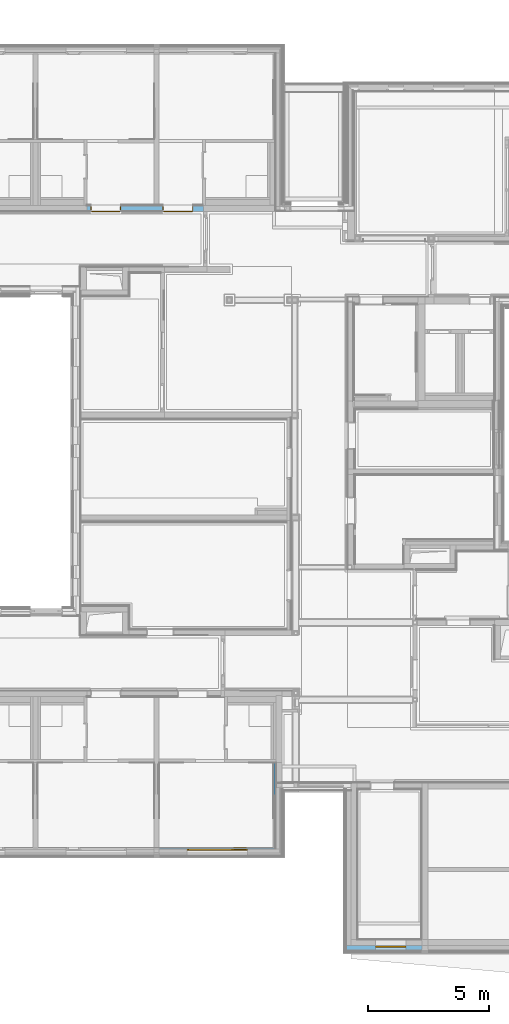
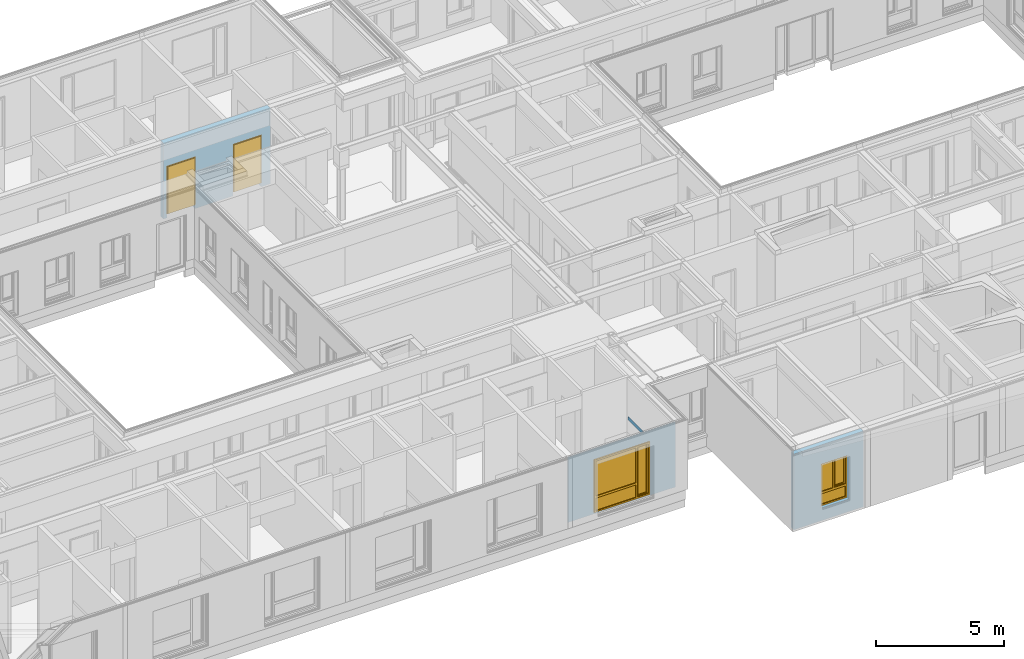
# One storey, part 86 of 207: 2 doors, 2 windows, 1 wall, 4 openings, plus 3 elements that do not belong to this part.
"""IFC4 building model written with IfcOpenShell, lengths in metres."""

from ifc_helpers import new_model, entity, si_unit, converted_unit, derived_unit, frame, frame_2d, origin, origin_with_axes, place, context, subcontext, project, spatial, polyline, rectangle, outline, extrude, closed_shell, open_shell, faceted_brep, surface_model, source, transform, mapped, material, type_object, element, fill, save


model = new_model("IFC4")

# Units and contexts
model_context = context("Model", 3, precision=1e-05, world=origin())
body_context = subcontext(model_context, "Body", "Model", "MODEL_VIEW")
ifc_project = project(units=[si_unit("LENGTHUNIT", "METRE"), si_unit("AREAUNIT", "SQUARE_METRE"), si_unit("VOLUMEUNIT", "CUBIC_METRE"), si_unit("MASSUNIT", "GRAM", prefix="KILO"), converted_unit("PLANEANGLEUNIT", "DEGREE", entity("IfcPlaneAngleMeasure", 0.0174532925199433), si_unit("PLANEANGLEUNIT", "RADIAN"), dimensions=[0, 0, 0, 0, 0, 0, 0]), derived_unit("THERMALTRANSMITTANCEUNIT", [(si_unit("POWERUNIT", "WATT"), 1), (si_unit("THERMODYNAMICTEMPERATUREUNIT", "KELVIN"), -1), (si_unit("LENGTHUNIT", "METRE"), -2)]), derived_unit("VOLUMETRICFLOWRATEUNIT", [(si_unit("LENGTHUNIT", "METRE"), 3), (converted_unit("TIMEUNIT", "hour", entity("IfcTimeMeasure", 3600.0), si_unit("TIMEUNIT", "SECOND"), dimensions=[0, 0, 1, 0, 0, 0, 0]), -1), (si_unit("LENGTHUNIT", "METRE"), -1)])], contexts=[model_context])

# Site, building, storey
site_placement = place(None, origin())
site = spatial("IfcSite", under=ifc_project, at=site_placement, Name="Psychiatrie Neubau Wunstorf", CompositionType="ELEMENT")
building_placement = place(site_placement, origin())
building = spatial("IfcBuilding", under=site, at=building_placement, Name="Neubau H2 Stationsgebäude", CompositionType="ELEMENT")
storey_placement = place(building_placement, frame((0.0, 0.0, -0.2)))
storey = spatial("IfcBuildingStorey", under=building, at=storey_placement, Name="H2 Ebene 0", CompositionType="ELEMENT", Elevation=-0.2)

# Wall, opening, window
ifc_material_1 = material(Name="WA-LB")
wall_1_placement = place(storey_placement, frame((34.925, -2.16399999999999, 0.5), z_axis=(0.0, 0.0, 1.0), x_axis=(-1.0, 9.42481556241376e-17, 0.0)))
wall_1 = element("IfcWall", 1, at=wall_1_placement, inside=storey, material=ifc_material_1, context=body_context, shape_type="SweptSolid", body=[
    extrude(rectangle(XDim=4.825, YDim=0.036, at=frame_2d((2.4125, 0.018), x_axis=(1.0, 0.0))), origin_with_axes(), (0.0, 0.0, 1.0), 3.1),
])
opening_1_placement = place(wall_1_placement, frame((1.175, 0.0, 0.1), z_axis=(0.0, 1.0, 0.0), x_axis=(0.0, 0.0, 1.0)))
opening_1 = element("IfcOpeningElement", 2, at=opening_1_placement, cuts=wall_1, Name="Fensteröffnung", ObjectType="Opening", context=body_context, shape_type="SweptSolid", body=[
    extrude(outline(polyline([(2.5, 2.5), (2.5, 0.0), (0.0, 0.0), (0.0, 2.5), (2.5, 2.5)])), origin_with_axes(), (0.0, 0.0, 1.0), 0.036),
])
shared_shape_1 = source(origin_with_axes(), body_context, "Body", "SurfaceModel", [
    surface_model("IfcShellBasedSurfaceModel", [(0.0, 0.0, 2.5), (0.07, 0.0, 2.5), (0.07, 0.0, 0.0), (0.0, 0.0, 0.0), (0.0, 0.0699999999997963, 0.0), (0.07, 0.0699999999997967, 0.0), (0.07, 0.0699999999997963, 2.5), (0.0, 0.0699999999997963, 2.5)], [closed_shell([[[0, 1, 2, 3]], [[4, 5, 6, 7]], [[3, 4, 7, 0]], [[2, 5, 4, 3]], [[1, 6, 5, 2]], [[0, 7, 6, 1]]], orient=[[False], [False], [False], [False], [False], [False]])]),
    surface_model("IfcShellBasedSurfaceModel", [(2.43, 0.0, 2.5), (2.5, 0.0, 2.5), (2.5, 0.0, 0.0), (2.43, 0.0, 0.0), (2.43, 0.0699999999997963, 0.0), (2.5, 0.0699999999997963, 0.0), (2.5, 0.0699999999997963, 2.5), (2.43, 0.0699999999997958, 2.5)], [closed_shell([[[0, 1, 2, 3]], [[4, 5, 6, 7]], [[3, 4, 7, 0]], [[2, 5, 4, 3]], [[1, 6, 5, 2]], [[0, 7, 6, 1]]], orient=[[False], [False], [False], [False], [False], [False]])]),
    surface_model("IfcShellBasedSurfaceModel", [(0.07, 0.0, 0.07), (2.43, 0.0, 0.07), (2.43, 0.0, 0.0), (0.07, 0.0, 0.0), (0.07, 0.0699999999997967, 0.0), (2.43, 0.0699999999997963, 0.0), (2.43, 0.0699999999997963, 0.07), (0.07, 0.0699999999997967, 0.07)], [closed_shell([[[0, 1, 2, 3]], [[4, 5, 6, 7]], [[3, 4, 7, 0]], [[2, 5, 4, 3]], [[1, 6, 5, 2]], [[0, 7, 6, 1]]], orient=[[False], [False], [False], [False], [False], [False]])]),
    surface_model("IfcShellBasedSurfaceModel", [(0.07, 0.0, 2.5), (2.43, 0.0, 2.5), (2.43, 0.0, 2.43), (0.07, 0.0, 2.43), (0.07, 0.0699999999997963, 2.43), (2.43, 0.0699999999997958, 2.43), (2.43, 0.0699999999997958, 2.5), (0.07, 0.0699999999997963, 2.5)], [closed_shell([[[0, 1, 2, 3]], [[4, 5, 6, 7]], [[3, 4, 7, 0]], [[2, 5, 4, 3]], [[1, 6, 5, 2]], [[0, 7, 6, 1]]], orient=[[False], [False], [False], [False], [False], [False]])]),
    surface_model("IfcShellBasedSurfaceModel", [(0.565714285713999, 0.0, 2.43), (0.635714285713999, 0.0, 2.43), (0.635714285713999, 0.0, 0.07), (0.565714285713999, 0.0, 0.07), (0.565714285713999, 0.0699999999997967, 0.07), (0.635714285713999, 0.0699999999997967, 0.07), (0.635714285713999, 0.0699999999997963, 2.43), (0.565714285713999, 0.0699999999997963, 2.43)], [closed_shell([[[0, 1, 2, 3]], [[4, 5, 6, 7]], [[3, 4, 7, 0]], [[2, 5, 4, 3]], [[1, 6, 5, 2]], [[0, 7, 6, 1]]], orient=[[False], [False], [False], [False], [False], [False]])]),
    surface_model("IfcShellBasedSurfaceModel", [(0.05, -0.0500000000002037, 2.45), (0.12, -0.0500000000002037, 2.45), (0.12, -0.0500000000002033, 0.05), (0.05, -0.0500000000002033, 0.05), (0.05, 0.0199999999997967, 0.05), (0.12, 0.0199999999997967, 0.05), (0.12, 0.0199999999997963, 2.45), (0.05, 0.0199999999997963, 2.45)], [closed_shell([[[0, 1, 2, 3]], [[4, 5, 6, 7]], [[3, 4, 7, 0]], [[2, 5, 4, 3]], [[1, 6, 5, 2]], [[0, 7, 6, 1]]], orient=[[False], [False], [False], [False], [False], [False]])]),
    surface_model("IfcShellBasedSurfaceModel", [(0.515714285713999, -0.0500000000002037, 2.45), (0.585714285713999, -0.0500000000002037, 2.45), (0.585714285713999, -0.0500000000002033, 0.05), (0.515714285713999, -0.0500000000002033, 0.05), (0.515714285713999, 0.0199999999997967, 0.05), (0.585714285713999, 0.0199999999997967, 0.05), (0.585714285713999, 0.0199999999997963, 2.45), (0.515714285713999, 0.0199999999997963, 2.45)], [closed_shell([[[0, 1, 2, 3]], [[4, 5, 6, 7]], [[3, 4, 7, 0]], [[2, 5, 4, 3]], [[1, 6, 5, 2]], [[0, 7, 6, 1]]], orient=[[False], [False], [False], [False], [False], [False]])]),
    surface_model("IfcShellBasedSurfaceModel", [(0.12, -0.0500000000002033, 0.12), (0.515714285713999, -0.0500000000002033, 0.12), (0.515714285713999, -0.0500000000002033, 0.05), (0.12, -0.0500000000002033, 0.05), (0.12, 0.0199999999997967, 0.05), (0.515714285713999, 0.0199999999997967, 0.05), (0.515714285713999, 0.0199999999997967, 0.12), (0.12, 0.0199999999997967, 0.12)], [closed_shell([[[0, 1, 2, 3]], [[4, 5, 6, 7]], [[3, 4, 7, 0]], [[2, 5, 4, 3]], [[1, 6, 5, 2]], [[0, 7, 6, 1]]], orient=[[False], [False], [False], [False], [False], [False]])]),
    surface_model("IfcShellBasedSurfaceModel", [(0.12, -0.0500000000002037, 2.45), (0.515714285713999, -0.0500000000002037, 2.45), (0.515714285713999, -0.0500000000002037, 2.38), (0.12, -0.0500000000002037, 2.38), (0.12, 0.0199999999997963, 2.38), (0.515714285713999, 0.0199999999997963, 2.38), (0.515714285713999, 0.0199999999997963, 2.45), (0.12, 0.0199999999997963, 2.45)], [closed_shell([[[0, 1, 2, 3]], [[4, 5, 6, 7]], [[3, 4, 7, 0]], [[2, 5, 4, 3]], [[1, 6, 5, 2]], [[0, 7, 6, 1]]], orient=[[False], [False], [False], [False], [False], [False]])]),
    surface_model("IfcShellBasedSurfaceModel", [(0.635714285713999, 0.0, 0.77), (2.43, 0.0, 0.77), (2.43, 0.0, 0.67), (0.635714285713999, 0.0, 0.67), (0.635714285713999, 0.0699999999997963, 0.67), (2.43, 0.0699999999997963, 0.67), (2.43, 0.0699999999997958, 0.77), (0.635714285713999, 0.0699999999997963, 0.77)], [closed_shell([[[0, 1, 2, 3]], [[4, 5, 6, 7]], [[3, 4, 7, 0]], [[2, 5, 4, 3]], [[1, 6, 5, 2]], [[0, 7, 6, 1]]], orient=[[False], [False], [False], [False], [False], [False]])]),
    surface_model("IfcShellBasedSurfaceModel", [(0.12, -0.0150000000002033, 0.12), (0.12, -0.0150000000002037, 2.38), (0.515714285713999, -0.0150000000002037, 2.38), (0.515714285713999, -0.0150000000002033, 0.12)], [open_shell([[[0, 1, 2, 3]]], orient=[[False]])]),
    surface_model("IfcShellBasedSurfaceModel", [(0.635714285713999, 0.0349999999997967, 0.07), (0.635714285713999, 0.0349999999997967, 0.67), (2.43, 0.0349999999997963, 0.67), (2.43, 0.0349999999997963, 0.07)], [open_shell([[[0, 1, 2, 3]]], orient=[[False]])]),
    surface_model("IfcShellBasedSurfaceModel", [(0.635714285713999, 0.0349999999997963, 0.77), (0.635714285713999, 0.0349999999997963, 2.43), (2.43, 0.0349999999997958, 2.43), (2.43, 0.0349999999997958, 0.77)], [open_shell([[[0, 1, 2, 3]]], orient=[[False]])]),
])
window_1_placement = place(opening_1_placement, frame((0.0, 0.0, 0.03), z_axis=(1.0, 0.0, 0.0), x_axis=(0.0, 1.0, -8.76507847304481e-17)))
window_1 = element("IfcWindow", 3, at=window_1_placement, inside=storey, Name="Fenster", OverallHeight=2.5, OverallWidth=2.5, PartitioningType="USERDEFINED", PredefinedType="WINDOW", context=body_context, shape_type="MappedRepresentation", body=[
    mapped(shared_shape_1, transform((0.0, 0.0, 0.0), x_axis=(1.0, 0.0, 0.0), y_axis=(0.0, 1.0, 0.0), z_axis=(0.0, 0.0, 1.0), scale=1.0)),
])
fill(opening_1, window_1)

ifc_material_2 = material(Name="WA-DL")
wall_2_placement = place(storey_placement, frame((40.95, -6.195000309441, 0.0), z_axis=(0.0, 0.0, 1.0), x_axis=(-1.0, 0.0, 0.0)))
wall_2 = element("IfcWall", 4, at=wall_2_placement, inside=storey, material=ifc_material_2, context=body_context, shape_type="SweptSolid", body=[
    extrude(rectangle(XDim=3.12999999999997, YDim=0.21, at=frame_2d((1.56499999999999, 0.105), x_axis=(1.0, 0.0))), origin_with_axes(), (0.0, 0.0, 1.0), 3.6),
])
opening_2_placement = place(wall_2_placement, frame((1.91000000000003, 0.21, 0.6), z_axis=(0.0, -1.0, 0.0), x_axis=(0.0, 0.0, 1.0)))
opening_2 = element("IfcOpeningElement", 5, at=opening_2_placement, cuts=wall_2, Name="Fensteröffnung", ObjectType="Opening", context=body_context, shape_type="SweptSolid", body=[
    extrude(outline(polyline([(2.1, 1.25), (2.1, 0.0), (0.0, 0.0), (0.0, 1.25), (2.1, 1.25)])), origin_with_axes(), (0.0, 0.0, 1.0), 0.21),
])
shared_shape_2 = source(origin_with_axes(), body_context, "Body", "SurfaceModel", [
    surface_model("IfcShellBasedSurfaceModel", [(0.0, 0.0, 2.1), (0.07, 0.0, 2.1), (0.07, 0.0, 0.0), (0.0, 0.0, 0.0), (0.0, 0.07, 0.0), (0.07, 0.07, 0.0), (0.07, 0.07, 2.1), (0.0, 0.07, 2.1)], [closed_shell([[[0, 1, 2, 3]], [[4, 5, 6, 7]], [[3, 4, 7, 0]], [[2, 5, 4, 3]], [[1, 6, 5, 2]], [[0, 7, 6, 1]]], orient=[[False], [False], [False], [False], [False], [False]])]),
    surface_model("IfcShellBasedSurfaceModel", [(1.18, 0.0, 2.1), (1.25, 0.0, 2.1), (1.25, 0.0, 0.0), (1.18, 0.0, 0.0), (1.18, 0.07, 0.0), (1.25, 0.07, 0.0), (1.25, 0.07, 2.1), (1.18, 0.07, 2.1)], [closed_shell([[[0, 1, 2, 3]], [[4, 5, 6, 7]], [[3, 4, 7, 0]], [[2, 5, 4, 3]], [[1, 6, 5, 2]], [[0, 7, 6, 1]]], orient=[[False], [False], [False], [False], [False], [False]])]),
    surface_model("IfcShellBasedSurfaceModel", [(0.07, 0.0, 0.07), (1.18, 0.0, 0.07), (1.18, 0.0, 0.0), (0.07, 0.0, 0.0), (0.07, 0.07, 0.0), (1.18, 0.07, 0.0), (1.18, 0.07, 0.07), (0.07, 0.07, 0.07)], [closed_shell([[[0, 1, 2, 3]], [[4, 5, 6, 7]], [[3, 4, 7, 0]], [[2, 5, 4, 3]], [[1, 6, 5, 2]], [[0, 7, 6, 1]]], orient=[[False], [False], [False], [False], [False], [False]])]),
    surface_model("IfcShellBasedSurfaceModel", [(0.07, 0.0, 2.1), (1.18, 0.0, 2.1), (1.18, 0.0, 2.03), (0.07, 0.0, 2.03), (0.07, 0.07, 2.03), (1.18, 0.07, 2.03), (1.18, 0.07, 2.1), (0.07, 0.07, 2.1)], [closed_shell([[[0, 1, 2, 3]], [[4, 5, 6, 7]], [[3, 4, 7, 0]], [[2, 5, 4, 3]], [[1, 6, 5, 2]], [[0, 7, 6, 1]]], orient=[[False], [False], [False], [False], [False], [False]])]),
    surface_model("IfcShellBasedSurfaceModel", [(0.07, 0.0, 0.67), (1.18, 0.0, 0.67), (1.18, 0.0, 0.57), (0.07, 0.0, 0.57), (0.07, 0.07, 0.57), (1.18, 0.07, 0.57), (1.18, 0.07, 0.67), (0.07, 0.07, 0.67)], [closed_shell([[[0, 1, 2, 3]], [[4, 5, 6, 7]], [[3, 4, 7, 0]], [[2, 5, 4, 3]], [[1, 6, 5, 2]], [[0, 7, 6, 1]]], orient=[[False], [False], [False], [False], [False], [False]])]),
    surface_model("IfcShellBasedSurfaceModel", [(0.07, 0.03500000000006, 0.07), (0.07, 0.03500000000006, 0.57), (1.18, 0.03500000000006, 0.57), (1.18, 0.03500000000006, 0.07)], [open_shell([[[0, 1, 2, 3]]], orient=[[False]])]),
    surface_model("IfcShellBasedSurfaceModel", [(0.57, 0.0, 2.03), (0.64, 0.0, 2.03), (0.64, 0.0, 0.67), (0.57, 0.0, 0.67), (0.57, 0.07, 0.67), (0.64, 0.07, 0.67), (0.64, 0.07, 2.03), (0.57, 0.07, 2.03)], [closed_shell([[[0, 1, 2, 3]], [[4, 5, 6, 7]], [[3, 4, 7, 0]], [[2, 5, 4, 3]], [[1, 6, 5, 2]], [[0, 7, 6, 1]]], orient=[[False], [False], [False], [False], [False], [False]])]),
    surface_model("IfcShellBasedSurfaceModel", [(0.05, -0.0499999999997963, 2.05), (0.12, -0.0499999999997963, 2.05), (0.12, -0.0499999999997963, 0.65), (0.05, -0.0499999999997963, 0.65), (0.05, 0.0200000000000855, 0.65), (0.12, 0.0200000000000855, 0.65), (0.12, 0.0200000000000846, 2.05), (0.05, 0.0200000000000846, 2.05)], [closed_shell([[[0, 1, 2, 3]], [[4, 5, 6, 7]], [[3, 4, 7, 0]], [[2, 5, 4, 3]], [[1, 6, 5, 2]], [[0, 7, 6, 1]]], orient=[[False], [False], [False], [False], [False], [False]])]),
    surface_model("IfcShellBasedSurfaceModel", [(0.52, -0.0499999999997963, 2.05), (0.59, -0.0499999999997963, 2.05), (0.59, -0.0499999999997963, 0.65), (0.52, -0.0499999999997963, 0.65), (0.52, 0.0200000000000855, 0.65), (0.59, 0.0200000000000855, 0.65), (0.59, 0.0200000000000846, 2.05), (0.52, 0.0200000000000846, 2.05)], [closed_shell([[[0, 1, 2, 3]], [[4, 5, 6, 7]], [[3, 4, 7, 0]], [[2, 5, 4, 3]], [[1, 6, 5, 2]], [[0, 7, 6, 1]]], orient=[[False], [False], [False], [False], [False], [False]])]),
    surface_model("IfcShellBasedSurfaceModel", [(0.12, -0.0499999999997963, 0.72), (0.52, -0.0499999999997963, 0.72), (0.52, -0.0499999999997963, 0.65), (0.12, -0.0499999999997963, 0.65), (0.12, 0.0200000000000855, 0.65), (0.52, 0.0200000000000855, 0.65), (0.52, 0.0200000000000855, 0.72), (0.12, 0.0200000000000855, 0.72)], [closed_shell([[[0, 1, 2, 3]], [[4, 5, 6, 7]], [[3, 4, 7, 0]], [[2, 5, 4, 3]], [[1, 6, 5, 2]], [[0, 7, 6, 1]]], orient=[[False], [False], [False], [False], [False], [False]])]),
    surface_model("IfcShellBasedSurfaceModel", [(0.12, -0.0499999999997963, 2.05), (0.52, -0.0499999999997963, 2.05), (0.52, -0.0499999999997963, 1.98), (0.12, -0.0499999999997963, 1.98), (0.12, 0.0200000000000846, 1.98), (0.52, 0.0200000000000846, 1.98), (0.52, 0.0200000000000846, 2.05), (0.12, 0.0200000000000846, 2.05)], [closed_shell([[[0, 1, 2, 3]], [[4, 5, 6, 7]], [[3, 4, 7, 0]], [[2, 5, 4, 3]], [[1, 6, 5, 2]], [[0, 7, 6, 1]]], orient=[[False], [False], [False], [False], [False], [False]])]),
    surface_model("IfcShellBasedSurfaceModel", [(0.64, 0.03500000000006, 0.67), (0.64, 0.0350000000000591, 2.03), (1.18, 0.0350000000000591, 2.03), (1.18, 0.03500000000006, 0.67)], [open_shell([[[0, 1, 2, 3]]], orient=[[False]])]),
    surface_model("IfcShellBasedSurfaceModel", [(0.12, -0.0149999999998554, 0.72), (0.12, -0.0149999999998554, 1.98), (0.52, -0.0149999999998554, 1.98), (0.52, -0.0149999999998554, 0.72)], [open_shell([[[0, 1, 2, 3]]], orient=[[False]])]),
])
window_2_placement = place(opening_2_placement, frame((0.0, 1.25, 0.204), z_axis=(1.0, 0.0, 0.0), x_axis=(0.0, -1.0, 0.0)))
window_2 = element("IfcWindow", 6, at=window_2_placement, inside=storey, Name="Fenster", OverallHeight=2.1, OverallWidth=1.25, PartitioningType="USERDEFINED", PredefinedType="WINDOW", context=body_context, shape_type="MappedRepresentation", body=[
    mapped(shared_shape_2, transform((0.0, 0.0, 0.0), x_axis=(1.0, 0.0, 0.0), y_axis=(0.0, 1.0, 0.0), z_axis=(0.0, 0.0, 1.0), scale=1.0)),
])
fill(opening_2, window_2)

# Wall
wall_3_placement = place(storey_placement, frame((34.814, 0.0854496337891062, 1.625)))
element("IfcWall", 7, at=wall_3_placement, inside=storey, Name="WV 1.1", context=body_context, shape_type="Brep", body=[
    faceted_brep([(0.025, 1.2, 0.0), (0.0, 1.2, 0.0), (0.0, 0.0, 0.0), (0.025, 0.0, 0.0), (0.0, 1.2, 0.15), (0.025, 1.2, 0.15), (0.025, 0.0, 0.15), (0.0, 0.0, 0.15)], [[[0, 1, 2, 3]], [[4, 5, 6, 7]], [[1, 0, 5, 4]], [[2, 1, 4, 7]], [[3, 2, 7, 6]], [[0, 3, 6, 5]]], orient=[[False], [False], [False], [False], [False], [False]]),
])

# Wall, openings, doors
ifc_material_3 = material(Name="WI-HW 60")
wall_4_placement = place(storey_placement, frame((27.1250000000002, 24.1175000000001, 0.0), z_axis=(0.0, 0.0, 1.0), x_axis=(1.0, 3.0297554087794e-15, 0.0)))
wall_4 = element("IfcWall", 8, at=wall_4_placement, inside=storey, material=ifc_material_3, context=body_context, shape_type="SweptSolid", body=[
    extrude(rectangle(XDim=4.8029999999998, YDim=0.232, at=frame_2d((2.4014999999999, 0.116), x_axis=(1.0, 0.0))), origin_with_axes(), (0.0, 0.0, 1.0), 3.6),
])
opening_3_placement = place(wall_4_placement, frame((3.1249999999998, 0.0, 0.0), z_axis=(3.920235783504e-15, 1.0, 0.0), x_axis=(0.0, 0.0, 1.0)))
opening_3 = element("IfcOpeningElement", 9, at=opening_3_placement, cuts=wall_4, Name="Türöffnung", ObjectType="Opening", context=body_context, shape_type="SweptSolid", body=[
    extrude(outline(polyline([(2.46, 1.26), (2.46, 0.0), (0.0, 0.0), (0.0, 1.26), (2.46, 1.26)])), origin_with_axes(), (0.0, 0.0, 1.0), 0.232),
])
opening_4_placement = place(wall_4_placement, frame((0.149999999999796, 0.0, 0.0), z_axis=(3.06268420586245e-15, 1.0, 0.0), x_axis=(0.0, 0.0, 1.0)))
opening_4 = element("IfcOpeningElement", 10, at=opening_4_placement, cuts=wall_4, Name="Türöffnung", ObjectType="Opening", context=body_context, shape_type="SweptSolid", body=[
    extrude(outline(polyline([(2.46, 1.26), (2.46, 0.0), (0.0, 0.0), (0.0, 1.26), (2.46, 1.26)])), origin_with_axes(), (0.0, 0.0, 1.0), 0.232000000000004),
])
ifc_material_4 = material(Name="TI-2F-UZ-D")
door_type_1 = type_object("IfcDoorType", Name="SMT", OperationType="DOUBLE_DOOR_SINGLE_SWING", ParameterTakesPrecedence=False, PredefinedType="DOOR")
shared_shape_3 = source(origin_with_axes(), body_context, "Body", "Brep", [
    faceted_brep([(1.26, -0.015, 2.46), (1.26, -0.015, 0.2), (1.22, -0.015, 0.2), (1.22, -0.015, 2.46), (1.26, 0.287, 0.2), (1.26, 0.287, 2.46), (1.22, 0.287, 2.46), (1.22, 0.287, 0.2)], [[[0, 1, 2, 3]], [[4, 5, 6, 7]], [[1, 0, 5, 4]], [[2, 1, 4, 7]], [[3, 2, 7, 6]], [[0, 3, 6, 5]]], orient=[[False], [False], [False], [False], [False], [False]]),
    faceted_brep([(1.26, -0.015, 2.475), (1.275, -0.015, 2.475), (1.275, -0.015, 0.2), (1.26, -0.015, 0.2), (1.26, 0.0, 0.2), (1.275, 0.0, 0.2), (1.275, 0.0, 2.475), (1.26, 0.0, 2.475)], [[[0, 1, 2, 3]], [[4, 5, 6, 7]], [[3, 4, 7, 0]], [[2, 5, 4, 3]], [[1, 6, 5, 2]], [[0, 7, 6, 1]]], orient=[[False], [False], [False], [False], [False], [False]]),
    faceted_brep([(1.26, 0.272, 2.475), (1.275, 0.272, 2.475), (1.275, 0.272, 0.2), (1.26, 0.272, 0.2), (1.26, 0.287, 0.2), (1.275, 0.287, 0.2), (1.275, 0.287, 2.475), (1.26, 0.287, 2.475)], [[[0, 1, 2, 3]], [[4, 5, 6, 7]], [[3, 4, 7, 0]], [[2, 5, 4, 3]], [[1, 6, 5, 2]], [[0, 7, 6, 1]]], orient=[[False], [False], [False], [False], [False], [False]]),
    faceted_brep([(0.0400000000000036, -0.015, 2.46), (0.0400000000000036, -0.015, 0.2), (0.0, -0.015, 0.2), (0.0, -0.015, 2.46), (0.0400000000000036, 0.287, 0.2), (0.0400000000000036, 0.287, 2.46), (0.0, 0.287, 2.46), (0.0, 0.287, 0.2)], [[[0, 1, 2, 3]], [[4, 5, 6, 7]], [[1, 0, 5, 4]], [[2, 1, 4, 7]], [[3, 2, 7, 6]], [[0, 3, 6, 5]]], orient=[[False], [False], [False], [False], [False], [False]]),
    faceted_brep([(0.0, -0.015, 2.475), (0.0, -0.015, 0.2), (-0.0149999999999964, -0.015, 0.2), (-0.0149999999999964, -0.015, 2.475), (0.0, 0.0, 0.2), (0.0, 0.0, 2.475), (-0.0149999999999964, 0.0, 2.475), (-0.0149999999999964, 0.0, 0.2)], [[[0, 1, 2, 3]], [[4, 5, 6, 7]], [[1, 0, 5, 4]], [[2, 1, 4, 7]], [[3, 2, 7, 6]], [[0, 3, 6, 5]]], orient=[[False], [False], [False], [False], [False], [False]]),
    faceted_brep([(0.0, 0.272, 2.475), (0.0, 0.272, 0.2), (-0.0149999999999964, 0.272, 0.2), (-0.0149999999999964, 0.272, 2.475), (0.0, 0.287, 0.2), (0.0, 0.287, 2.475), (-0.0149999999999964, 0.287, 2.475), (-0.0149999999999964, 0.287, 0.2)], [[[0, 1, 2, 3]], [[4, 5, 6, 7]], [[1, 0, 5, 4]], [[2, 1, 4, 7]], [[3, 2, 7, 6]], [[0, 3, 6, 5]]], orient=[[False], [False], [False], [False], [False], [False]]),
    faceted_brep([(1.22, -0.015, 2.46), (1.22, -0.015, 2.42), (0.0400000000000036, -0.015, 2.42), (0.0400000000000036, -0.015, 2.46), (1.22, 0.287, 2.42), (1.22, 0.287, 2.46), (0.0400000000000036, 0.287, 2.46), (0.0400000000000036, 0.287, 2.42)], [[[0, 1, 2, 3]], [[4, 5, 6, 7]], [[1, 0, 5, 4]], [[2, 1, 4, 7]], [[3, 2, 7, 6]], [[0, 3, 6, 5]]], orient=[[False], [False], [False], [False], [False], [False]]),
    faceted_brep([(1.26, -0.015, 2.475), (1.26, -0.015, 2.46), (0.0, -0.015, 2.46), (0.0, -0.015, 2.475), (1.26, 0.0, 2.46), (1.26, 0.0, 2.475), (0.0, 0.0, 2.475), (0.0, 0.0, 2.46)], [[[0, 1, 2, 3]], [[4, 5, 6, 7]], [[1, 0, 5, 4]], [[2, 1, 4, 7]], [[3, 2, 7, 6]], [[0, 3, 6, 5]]], orient=[[False], [False], [False], [False], [False], [False]]),
    faceted_brep([(1.26, 0.272, 2.475), (1.26, 0.272, 2.46), (0.0, 0.272, 2.46), (0.0, 0.272, 2.475), (1.26, 0.287, 2.46), (1.26, 0.287, 2.475), (0.0, 0.287, 2.475), (0.0, 0.287, 2.46)], [[[0, 1, 2, 3]], [[4, 5, 6, 7]], [[1, 0, 5, 4]], [[2, 1, 4, 7]], [[3, 2, 7, 6]], [[0, 3, 6, 5]]], orient=[[False], [False], [False], [False], [False], [False]]),
    faceted_brep([(1.235, 0.252, 2.435), (1.235, 0.252, 0.2), (0.335000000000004, 0.252, 0.2), (0.335000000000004, 0.252, 2.435), (1.235, 0.302, 0.2), (1.235, 0.302, 2.435), (0.335000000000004, 0.302, 2.435), (0.335000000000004, 0.302, 0.2)], [[[0, 1, 2, 3]], [[4, 5, 6, 7]], [[1, 0, 5, 4]], [[2, 1, 4, 7]], [[3, 2, 7, 6]], [[0, 3, 6, 5]]], orient=[[False], [False], [False], [False], [False], [False]]),
    faceted_brep([(0.334000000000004, 0.252, 2.435), (0.334000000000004, 0.252, 0.2), (0.0250000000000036, 0.252, 0.2), (0.0250000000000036, 0.252, 2.435), (0.334000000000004, 0.302, 0.2), (0.334000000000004, 0.302, 2.435), (0.0250000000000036, 0.302, 2.435), (0.0250000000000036, 0.302, 0.2)], [[[0, 1, 2, 3]], [[4, 5, 6, 7]], [[1, 0, 5, 4]], [[2, 1, 4, 7]], [[3, 2, 7, 6]], [[0, 3, 6, 5]]], orient=[[False], [False], [False], [False], [False], [False]]),
])
door_1_placement = place(opening_3_placement, frame((0.0, 1.26, 0.272000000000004), z_axis=(1.0, 0.0, 0.0), x_axis=(0.0, -1.0, -8.90480374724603e-16)))
door_1 = element("IfcDoor", 11, at=door_1_placement, inside=storey, type_object=door_type_1, material=ifc_material_4, Name="SMT", OverallHeight=2.46, OverallWidth=1.26, context=body_context, shape_type="MappedRepresentation", body=[
    mapped(shared_shape_3, transform((0.0, 0.0, 0.0), x_axis=(1.0, 0.0, 0.0), y_axis=(0.0, 1.0, 0.0), z_axis=(0.0, 0.0, 1.0), scale=1.0)),
])
fill(opening_3, door_1)
ifc_material_5 = material(Name="TI-2F-UZ-D")
door_type_2 = type_object("IfcDoorType", Name="SMT", OperationType="DOUBLE_DOOR_SINGLE_SWING", ParameterTakesPrecedence=False, PredefinedType="DOOR")
shared_shape_4 = source(origin_with_axes(), body_context, "Body", "Brep", [
    faceted_brep([(0.0, -0.015, 2.46), (0.0400000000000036, -0.015, 2.46), (0.0400000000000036, -0.015, 0.2), (0.0, -0.015, 0.2), (0.0, 0.287000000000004, 0.2), (0.0400000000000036, 0.287000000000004, 0.2), (0.0400000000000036, 0.287000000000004, 2.46), (0.0, 0.287000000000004, 2.46)], [[[0, 1, 2, 3]], [[4, 5, 6, 7]], [[3, 4, 7, 0]], [[2, 5, 4, 3]], [[1, 6, 5, 2]], [[0, 7, 6, 1]]], orient=[[False], [False], [False], [False], [False], [False]]),
    faceted_brep([(0.0, -0.015, 2.475), (0.0, -0.015, 0.2), (-0.0149999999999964, -0.015, 0.2), (-0.0149999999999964, -0.015, 2.475), (0.0, 0.0, 0.2), (0.0, 0.0, 2.475), (-0.0149999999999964, 0.0, 2.475), (-0.0149999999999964, 0.0, 0.2)], [[[0, 1, 2, 3]], [[4, 5, 6, 7]], [[1, 0, 5, 4]], [[2, 1, 4, 7]], [[3, 2, 7, 6]], [[0, 3, 6, 5]]], orient=[[False], [False], [False], [False], [False], [False]]),
    faceted_brep([(0.0, 0.272000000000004, 2.475), (0.0, 0.272000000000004, 0.2), (-0.0149999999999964, 0.272000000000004, 0.2), (-0.0149999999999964, 0.272000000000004, 2.475), (0.0, 0.287000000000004, 0.2), (0.0, 0.287000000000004, 2.475), (-0.0149999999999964, 0.287000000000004, 2.475), (-0.0149999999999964, 0.287000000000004, 0.2)], [[[0, 1, 2, 3]], [[4, 5, 6, 7]], [[1, 0, 5, 4]], [[2, 1, 4, 7]], [[3, 2, 7, 6]], [[0, 3, 6, 5]]], orient=[[False], [False], [False], [False], [False], [False]]),
    faceted_brep([(1.22, -0.015, 2.46), (1.26, -0.015, 2.46), (1.26, -0.015, 0.2), (1.22, -0.015, 0.2), (1.22, 0.287000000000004, 0.2), (1.26, 0.287000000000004, 0.2), (1.26, 0.287000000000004, 2.46), (1.22, 0.287000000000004, 2.46)], [[[0, 1, 2, 3]], [[4, 5, 6, 7]], [[3, 4, 7, 0]], [[2, 5, 4, 3]], [[1, 6, 5, 2]], [[0, 7, 6, 1]]], orient=[[False], [False], [False], [False], [False], [False]]),
    faceted_brep([(1.26, -0.015, 2.475), (1.275, -0.015, 2.475), (1.275, -0.015, 0.2), (1.26, -0.015, 0.2), (1.26, 0.0, 0.2), (1.275, 0.0, 0.2), (1.275, 0.0, 2.475), (1.26, 0.0, 2.475)], [[[0, 1, 2, 3]], [[4, 5, 6, 7]], [[3, 4, 7, 0]], [[2, 5, 4, 3]], [[1, 6, 5, 2]], [[0, 7, 6, 1]]], orient=[[False], [False], [False], [False], [False], [False]]),
    faceted_brep([(1.26, 0.272000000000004, 2.475), (1.275, 0.272000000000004, 2.475), (1.275, 0.272000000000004, 0.2), (1.26, 0.272000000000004, 0.2), (1.26, 0.287000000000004, 0.2), (1.275, 0.287000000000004, 0.2), (1.275, 0.287000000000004, 2.475), (1.26, 0.287000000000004, 2.475)], [[[0, 1, 2, 3]], [[4, 5, 6, 7]], [[3, 4, 7, 0]], [[2, 5, 4, 3]], [[1, 6, 5, 2]], [[0, 7, 6, 1]]], orient=[[False], [False], [False], [False], [False], [False]]),
    faceted_brep([(0.0400000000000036, -0.015, 2.46), (1.22, -0.015, 2.46), (1.22, -0.015, 2.42), (0.0400000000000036, -0.015, 2.42), (0.0400000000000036, 0.287000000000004, 2.42), (1.22, 0.287000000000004, 2.42), (1.22, 0.287000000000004, 2.46), (0.0400000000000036, 0.287000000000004, 2.46)], [[[0, 1, 2, 3]], [[4, 5, 6, 7]], [[3, 4, 7, 0]], [[2, 5, 4, 3]], [[1, 6, 5, 2]], [[0, 7, 6, 1]]], orient=[[False], [False], [False], [False], [False], [False]]),
    faceted_brep([(0.0, -0.015, 2.475), (1.26, -0.015, 2.475), (1.26, -0.015, 2.46), (0.0, -0.015, 2.46), (0.0, 0.0, 2.46), (1.26, 0.0, 2.46), (1.26, 0.0, 2.475), (0.0, 0.0, 2.475)], [[[0, 1, 2, 3]], [[4, 5, 6, 7]], [[3, 4, 7, 0]], [[2, 5, 4, 3]], [[1, 6, 5, 2]], [[0, 7, 6, 1]]], orient=[[False], [False], [False], [False], [False], [False]]),
    faceted_brep([(0.0, 0.272000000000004, 2.475), (1.26, 0.272000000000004, 2.475), (1.26, 0.272000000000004, 2.46), (0.0, 0.272000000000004, 2.46), (0.0, 0.287000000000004, 2.46), (1.26, 0.287000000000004, 2.46), (1.26, 0.287000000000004, 2.475), (0.0, 0.287000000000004, 2.475)], [[[0, 1, 2, 3]], [[4, 5, 6, 7]], [[3, 4, 7, 0]], [[2, 5, 4, 3]], [[1, 6, 5, 2]], [[0, 7, 6, 1]]], orient=[[False], [False], [False], [False], [False], [False]]),
    faceted_brep([(0.0250000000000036, 0.252000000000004, 2.435), (0.925000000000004, 0.252000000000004, 2.435), (0.925000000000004, 0.252000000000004, 0.2), (0.0250000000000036, 0.252000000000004, 0.2), (0.0250000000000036, 0.302000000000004, 0.2), (0.925000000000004, 0.302000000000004, 0.2), (0.925000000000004, 0.302000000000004, 2.435), (0.0250000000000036, 0.302000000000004, 2.435)], [[[0, 1, 2, 3]], [[4, 5, 6, 7]], [[3, 4, 7, 0]], [[2, 5, 4, 3]], [[1, 6, 5, 2]], [[0, 7, 6, 1]]], orient=[[False], [False], [False], [False], [False], [False]]),
    faceted_brep([(0.926000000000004, 0.252000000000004, 2.435), (1.235, 0.252000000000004, 2.435), (1.235, 0.252000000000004, 0.2), (0.926000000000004, 0.252000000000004, 0.2), (0.926000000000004, 0.302000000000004, 0.2), (1.235, 0.302000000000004, 0.2), (1.235, 0.302000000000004, 2.435), (0.926000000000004, 0.302000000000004, 2.435)], [[[0, 1, 2, 3]], [[4, 5, 6, 7]], [[3, 4, 7, 0]], [[2, 5, 4, 3]], [[1, 6, 5, 2]], [[0, 7, 6, 1]]], orient=[[False], [False], [False], [False], [False], [False]]),
])
door_2_placement = place(opening_4_placement, frame((0.0, 1.26, 0.272000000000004), z_axis=(1.0, 0.0, 0.0), x_axis=(0.0, -1.0, -3.29287970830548e-17)))
door_2 = element("IfcDoor", 12, at=door_2_placement, inside=storey, type_object=door_type_2, material=ifc_material_5, Name="SMT", OverallHeight=2.46, OverallWidth=1.26, context=body_context, shape_type="MappedRepresentation", body=[
    mapped(shared_shape_4, transform((0.0, 0.0, 0.0), x_axis=(1.0, 0.0, 0.0), y_axis=(0.0, 1.0, 0.0), z_axis=(0.0, 0.0, 1.0), scale=1.0)),
])
fill(opening_4, door_2)

save(model, "model.ifc")
